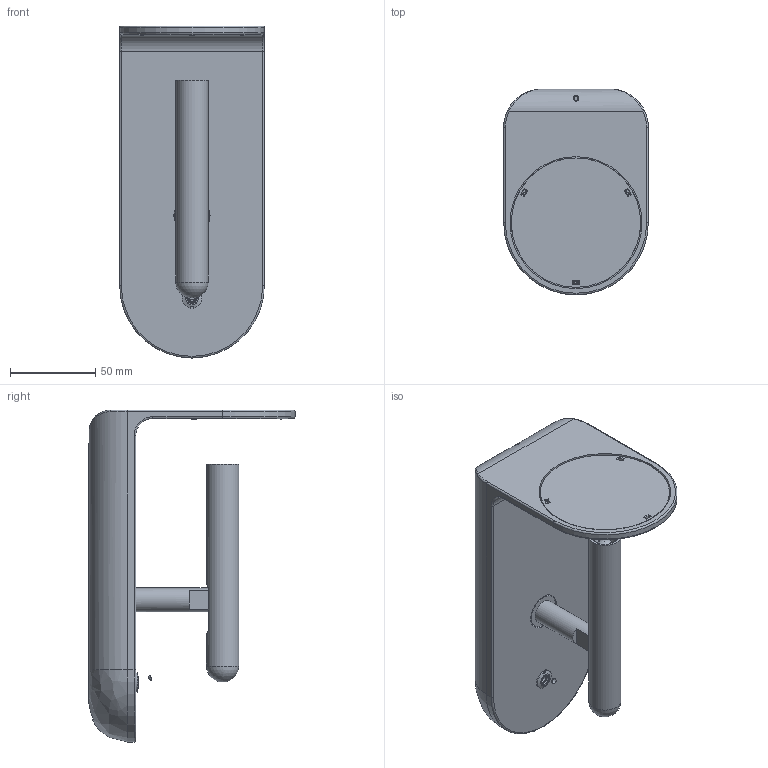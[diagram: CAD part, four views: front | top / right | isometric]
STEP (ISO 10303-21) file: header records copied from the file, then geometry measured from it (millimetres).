
FILE_DESCRIPTION( ( 'Unknown' ), '1' );
FILE_NAME( 'U:/ARCHIVIO TECNICO/ARCHIVIO 3D/7976.stp', 'Unknown', ( 'Unknown' ), ( 'Unknown' ), 'PSStep 17.0.49', 'Unknown', ' ' );
FILE_SCHEMA( ( 'AUTOMOTIVE_DESIGN { 1 0 10303 214 1 1 1 1 }' ) );
Length unit declared in the file: millimetre
Products named in the file (16): Assem1; 150000101064; 155000374064; 155000376021; 060000086356; 151001038710; 216000013013; H1233-5; 150000105064; 061000192713; 155000373064; 063000158356; R2449-1; R3956-1
Assembly tree (15 placements, depth 2):
  Assem1
    150000101064
    155000374064
    155000376021
    060000086356
    151001038710
    216000013013
    H1233-5
    150000105064
    (unnamed)
    (unnamed)
    061000192713
    155000373064
    063000158356
    R2449-1
    R3956-1
Bounding box: 85 x 121 x 195 mm (x, y, z)
Volume: 278541.6 mm3; surface area: 110400.8 mm2
Topology: 14 solids, 15 shells, 911 faces, 2484 edges, 1604 vertices
Faces by surface type: plane 466, cylinder 240, extrusion 62, bspline 59, cone 34, torus 33, sphere 16, revolution 1
Full cylindrical faces by diameter (mm): 1.8 x2, 3 x1, 3.242 x4, 3.5 x2, 4 x4, 4.5 x1, 4.917 x1, 6.2 x1, 6.35 x1, 8.25 x1, 8.4 x1, 9 x1, 10 x2, 10.5 x1, 14 x1, 14.917 x2, 16 x1, 19 x1, 20 x1, 70 x1, 76 x1, 77.5 x1
Entity records: 47154 total; most frequent: CARTESIAN_POINT 16212, ORIENTED_EDGE 4742, DIRECTION 4199, EDGE_CURVE 2373, VERTEX_POINT 1578, VECTOR 1498, LINE 1436, AXIS2_PLACEMENT_3D 1350
